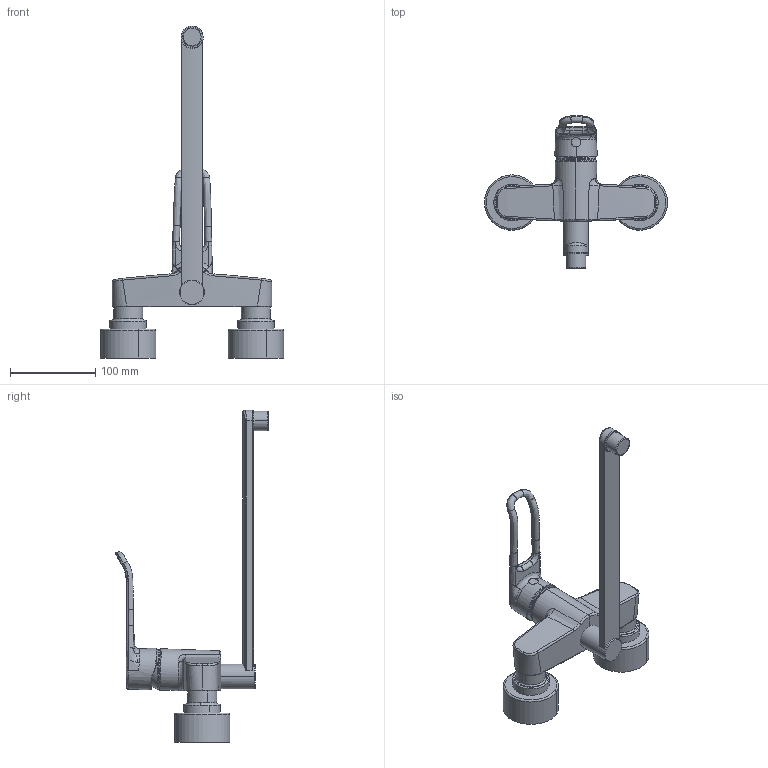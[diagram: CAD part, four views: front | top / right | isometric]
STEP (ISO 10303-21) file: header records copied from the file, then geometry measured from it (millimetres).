
FILE_DESCRIPTION (( 'STEP AP203' ), '1' );
FILE_NAME ('5636(2018).STEP', '2018-10-03T06:27:30', ( '' ), ( '' ), 'SwSTEP 2.0', 'SolidWorks 2016', '' );
FILE_SCHEMA (( 'CONFIG_CONTROL_DESIGN' ));
Length unit declared in the file: millimetre
Products named in the file (1): 5636(2018)
Bounding box: 214.94 x 179.53 x 389.78 mm (x, y, z)
Volume: 764744.6 mm3; surface area: 112878.2 mm2
Topology: 1 solids, 1 shells, 196 faces, 471 edges, 289 vertices
Faces by surface type: bspline 131, cylinder 37, plane 20, torus 4, cone 2, sphere 2
Entity records: 23701 total; most frequent: CARTESIAN_POINT 20041, ORIENTED_EDGE 942, EDGE_CURVE 471, DIRECTION 448, VERTEX_POINT 289, B_SPLINE_CURVE_WITH_KNOTS 260, EDGE_LOOP 210, ADVANCED_FACE 196
